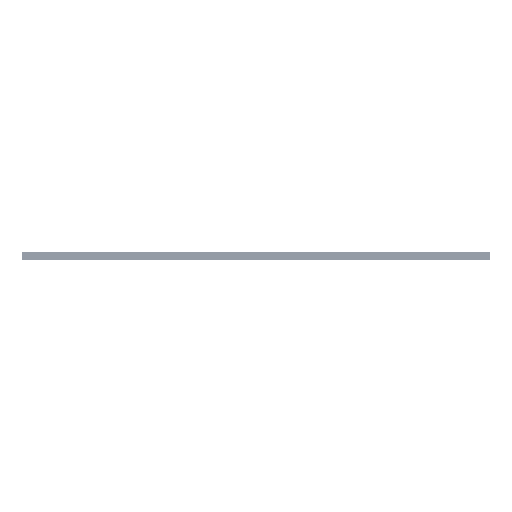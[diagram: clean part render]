
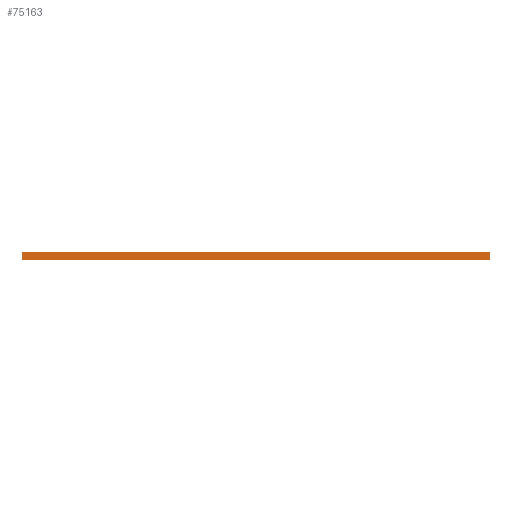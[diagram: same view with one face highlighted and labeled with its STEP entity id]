
A CAD part, front view. The second image highlights one B-rep face of the part: STEP entity #75163.
In plain terms, the highlighted planar face has unit normal (0, -1, 0).
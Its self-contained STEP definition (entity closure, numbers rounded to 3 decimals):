
#75163 = ADVANCED_FACE('',(#75164),#75198,.T.);
#75164 = FACE_BOUND('',#75165,.T.);
#75165 = EDGE_LOOP('',(#75166,#75176,#75184,#75192));
#75166 = ORIENTED_EDGE('',*,*,#75167,.T.);
#75167 = EDGE_CURVE('',#75168,#75170,#75172,.T.);
#75168 = VERTEX_POINT('',#75169);
#75169 = CARTESIAN_POINT('',(99.,-79.,0.));
#75170 = VERTEX_POINT('',#75171);
#75171 = CARTESIAN_POINT('',(99.,-79.,1.51));
#75172 = LINE('',#75173,#75174);
#75173 = CARTESIAN_POINT('',(99.,-79.,0.));
#75174 = VECTOR('',#75175,1.);
#75175 = DIRECTION('',(0.,0.,1.));
#75176 = ORIENTED_EDGE('',*,*,#75177,.T.);
#75177 = EDGE_CURVE('',#75170,#75178,#75180,.T.);
#75178 = VERTEX_POINT('',#75179);
#75179 = CARTESIAN_POINT('',(9.,-79.,1.51));
#75180 = LINE('',#75181,#75182);
#75181 = CARTESIAN_POINT('',(99.,-79.,1.51));
#75182 = VECTOR('',#75183,1.);
#75183 = DIRECTION('',(-1.,0.,0.));
#75184 = ORIENTED_EDGE('',*,*,#75185,.F.);
#75185 = EDGE_CURVE('',#75186,#75178,#75188,.T.);
#75186 = VERTEX_POINT('',#75187);
#75187 = CARTESIAN_POINT('',(9.,-79.,0.));
#75188 = LINE('',#75189,#75190);
#75189 = CARTESIAN_POINT('',(9.,-79.,0.));
#75190 = VECTOR('',#75191,1.);
#75191 = DIRECTION('',(0.,0.,1.));
#75192 = ORIENTED_EDGE('',*,*,#75193,.F.);
#75193 = EDGE_CURVE('',#75168,#75186,#75194,.T.);
#75194 = LINE('',#75195,#75196);
#75195 = CARTESIAN_POINT('',(99.,-79.,0.));
#75196 = VECTOR('',#75197,1.);
#75197 = DIRECTION('',(-1.,0.,0.));
#75198 = PLANE('',#75199);
#75199 = AXIS2_PLACEMENT_3D('',#75200,#75201,#75202);
#75200 = CARTESIAN_POINT('',(99.,-79.,0.));
#75201 = DIRECTION('',(0.,-1.,0.));
#75202 = DIRECTION('',(-1.,0.,0.));
